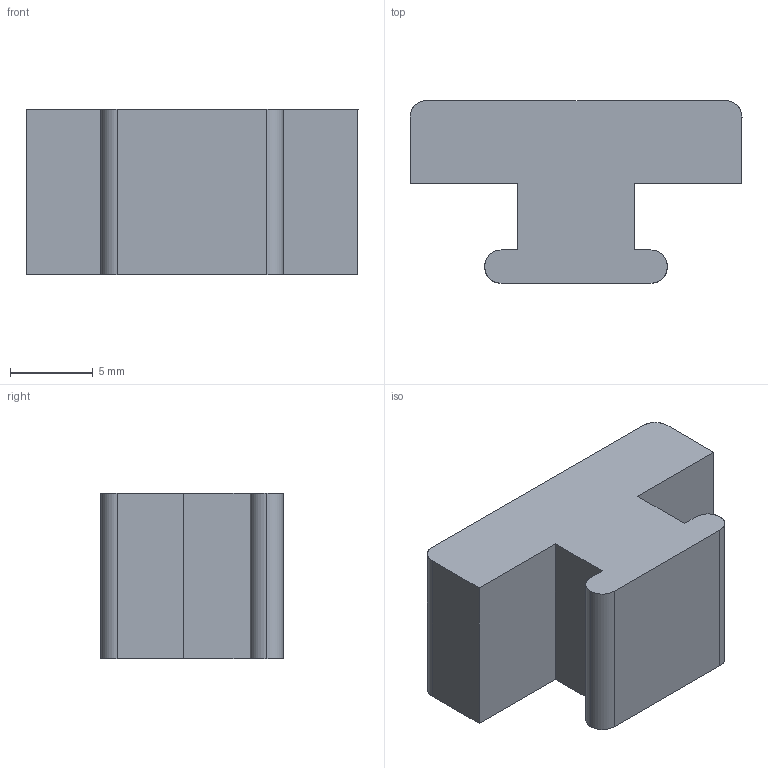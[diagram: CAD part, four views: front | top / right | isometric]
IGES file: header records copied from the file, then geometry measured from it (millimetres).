
Start section: SolidWorks IGES file using analytic representation for surfaces
Global section: file name: C:\Documents and Settings\URETIM3\Desktop\yeni katalog tolgay düzenli\E kataloðu\T 300 PROFÝL ALPOLEN 1000\206 T20 001.IGS; native system: SolidWorks 2006 by SolidWorks Corporation; preprocessor: SolidWorks 2006 by SolidWorks Corporation; author: URETIM3; date: 060912.161130; units: millimetre
Bounding box: 20 x 11 x 10 mm (x, y, z)
Surface area: 971.7 mm2 (no closed solid volume)
Topology: 0 solids, 0 shells, 17 faces, 176 edges, 176 vertices
Faces by surface type: bspline 12, revolution 5
